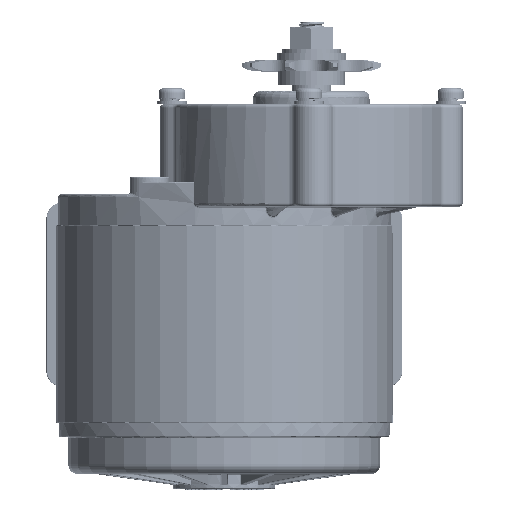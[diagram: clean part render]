
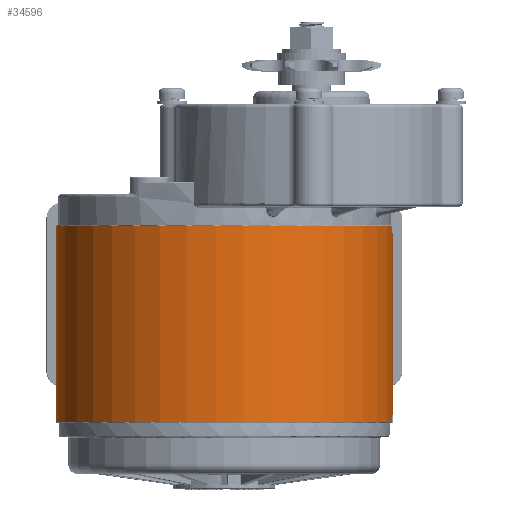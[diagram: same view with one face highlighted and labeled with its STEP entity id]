
A CAD part, top view. The second image highlights one B-rep face of the part: STEP entity #34596.
In plain terms, the highlighted cylindrical face has radius 51.2 mm (diameter 102.4 mm), a full revolution.
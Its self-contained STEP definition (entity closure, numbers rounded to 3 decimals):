
#1972=FACE_OUTER_BOUND('',#4110,.T.);
#4110=EDGE_LOOP('',(#24295,#24296,#24297,#24298,#24299,#24300,#24301,#24302,
#24303,#24304,#24305,#24306));
#7897=CIRCLE('',#36917,51.2);
#7904=CIRCLE('',#36932,51.2);
#7905=CIRCLE('',#36933,51.2);
#7906=CIRCLE('',#36934,51.2);
#7907=CIRCLE('',#36935,51.2);
#7908=CIRCLE('',#36936,51.2);
#9609=LINE('',#67791,#11571);
#9614=LINE('',#67814,#11576);
#9621=LINE('',#67845,#11583);
#9622=LINE('',#67849,#11584);
#9623=LINE('',#67853,#11585);
#11571=VECTOR('',#41067,10.);
#11576=VECTOR('',#41078,10.);
#11583=VECTOR('',#41101,51.2);
#11584=VECTOR('',#41104,10.);
#11585=VECTOR('',#41107,10.);
#13860=VERTEX_POINT('',#67773);
#13861=VERTEX_POINT('',#67774);
#13868=VERTEX_POINT('',#67790);
#13873=VERTEX_POINT('',#67813);
#13878=VERTEX_POINT('',#67842);
#13879=VERTEX_POINT('',#67844);
#13880=VERTEX_POINT('',#67846);
#13881=VERTEX_POINT('',#67848);
#13882=VERTEX_POINT('',#67850);
#13883=VERTEX_POINT('',#67852);
#17684=EDGE_CURVE('',#13860,#13861,#7897,.T.);
#17692=EDGE_CURVE('',#13861,#13868,#9609,.T.);
#17699=EDGE_CURVE('',#13873,#13860,#9614,.T.);
#17709=EDGE_CURVE('',#13878,#13868,#7904,.T.);
#17710=EDGE_CURVE('',#13878,#13879,#9621,.T.);
#17711=EDGE_CURVE('',#13880,#13879,#7905,.T.);
#17712=EDGE_CURVE('',#13880,#13881,#9622,.T.);
#17713=EDGE_CURVE('',#13881,#13882,#7906,.T.);
#17714=EDGE_CURVE('',#13882,#13883,#9623,.T.);
#17715=EDGE_CURVE('',#13879,#13883,#7907,.T.);
#17716=EDGE_CURVE('',#13873,#13878,#7908,.T.);
#24295=ORIENTED_EDGE('',*,*,#17699,.T.);
#24296=ORIENTED_EDGE('',*,*,#17684,.T.);
#24297=ORIENTED_EDGE('',*,*,#17692,.T.);
#24298=ORIENTED_EDGE('',*,*,#17709,.F.);
#24299=ORIENTED_EDGE('',*,*,#17710,.T.);
#24300=ORIENTED_EDGE('',*,*,#17711,.F.);
#24301=ORIENTED_EDGE('',*,*,#17712,.T.);
#24302=ORIENTED_EDGE('',*,*,#17713,.T.);
#24303=ORIENTED_EDGE('',*,*,#17714,.T.);
#24304=ORIENTED_EDGE('',*,*,#17715,.F.);
#24305=ORIENTED_EDGE('',*,*,#17710,.F.);
#24306=ORIENTED_EDGE('',*,*,#17716,.F.);
#33488=CYLINDRICAL_SURFACE('',#36931,51.2);
#34596=ADVANCED_FACE('',(#1972),#33488,.T.);
#36917=AXIS2_PLACEMENT_3D('',#67775,#41053,#41054);
#36931=AXIS2_PLACEMENT_3D('',#67841,#41097,#41098);
#36932=AXIS2_PLACEMENT_3D('',#67843,#41099,#41100);
#36933=AXIS2_PLACEMENT_3D('',#67847,#41102,#41103);
#36934=AXIS2_PLACEMENT_3D('',#67851,#41105,#41106);
#36935=AXIS2_PLACEMENT_3D('',#67854,#41108,#41109);
#36936=AXIS2_PLACEMENT_3D('',#67855,#41110,#41111);
#41053=DIRECTION('center_axis',(0.,-1.,0.));
#41054=DIRECTION('ref_axis',(1.,0.,0.));
#41067=DIRECTION('',(0.,1.,0.));
#41078=DIRECTION('',(0.,-1.,0.));
#41097=DIRECTION('center_axis',(0.,1.,0.));
#41098=DIRECTION('ref_axis',(1.,0.,0.));
#41099=DIRECTION('center_axis',(0.,1.,0.));
#41100=DIRECTION('ref_axis',(1.,0.,0.));
#41101=DIRECTION('',(0.,-1.,0.));
#41102=DIRECTION('center_axis',(0.,-1.,0.));
#41103=DIRECTION('ref_axis',(1.,0.,0.));
#41104=DIRECTION('',(0.,1.,0.));
#41105=DIRECTION('center_axis',(0.,1.,0.));
#41106=DIRECTION('ref_axis',(1.,0.,0.));
#41107=DIRECTION('',(0.,-1.,0.));
#41108=DIRECTION('center_axis',(0.,-1.,0.));
#41109=DIRECTION('ref_axis',(1.,0.,0.));
#41110=DIRECTION('center_axis',(0.,1.,0.));
#41111=DIRECTION('ref_axis',(1.,0.,0.));
#67773=CARTESIAN_POINT('',(51.141,27.5,2.462));
#67774=CARTESIAN_POINT('',(50.921,27.5,5.334));
#67775=CARTESIAN_POINT('Origin',(0.,27.5,0.));
#67790=CARTESIAN_POINT('',(50.921,29.8,5.334));
#67791=CARTESIAN_POINT('',(50.921,0.,5.334));
#67813=CARTESIAN_POINT('',(51.141,29.8,2.462));
#67814=CARTESIAN_POINT('',(51.141,0.,2.462));
#67841=CARTESIAN_POINT('Origin',(0.,0.,0.));
#67842=CARTESIAN_POINT('',(-51.2,29.8,0.));
#67843=CARTESIAN_POINT('Origin',(0.,29.8,0.));
#67844=CARTESIAN_POINT('',(-51.2,-29.8,0.));
#67845=CARTESIAN_POINT('',(-51.2,0.,0.));
#67846=CARTESIAN_POINT('',(50.921,-29.8,5.334));
#67847=CARTESIAN_POINT('Origin',(0.,-29.8,0.));
#67848=CARTESIAN_POINT('',(50.921,-27.5,5.334));
#67849=CARTESIAN_POINT('',(50.921,0.,5.334));
#67850=CARTESIAN_POINT('',(51.141,-27.5,2.462));
#67851=CARTESIAN_POINT('Origin',(0.,-27.5,0.));
#67852=CARTESIAN_POINT('',(51.141,-29.8,2.462));
#67853=CARTESIAN_POINT('',(51.141,0.,2.462));
#67854=CARTESIAN_POINT('Origin',(0.,-29.8,0.));
#67855=CARTESIAN_POINT('Origin',(0.,29.8,0.));
